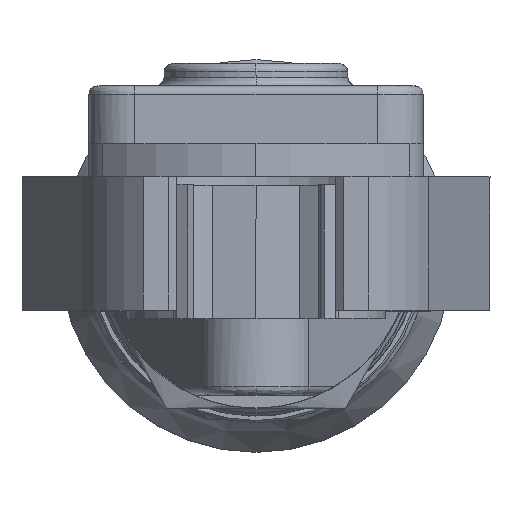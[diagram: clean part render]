
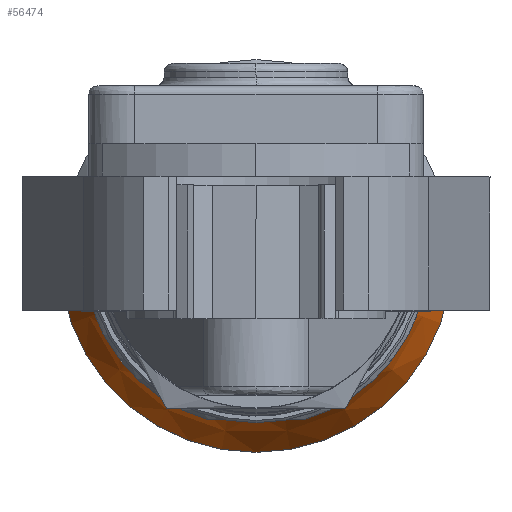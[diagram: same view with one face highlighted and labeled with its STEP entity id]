
A CAD part, top view. The second image highlights one B-rep face of the part: STEP entity #56474.
In plain terms, the highlighted conical face has half-angle 30 degrees and reference radius 19.05 mm.
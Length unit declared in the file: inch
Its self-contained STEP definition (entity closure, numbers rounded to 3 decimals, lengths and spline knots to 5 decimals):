
#2720 = EDGE_LOOP ( 'NONE', ( #53726, #8080, #48964, #38703 ) ) ;
#2801 = EDGE_CURVE ( 'NONE', #56635, #46944, #20725, .T. ) ;
#4835 = VECTOR ( 'NONE', #58913, 39.37008 ) ;
#6954 = EDGE_CURVE ( 'NONE', #56635, #19429, #64011, .T. ) ;
#8080 = ORIENTED_EDGE ( 'NONE', *, *, #6954, .T. ) ;
#12203 = CARTESIAN_POINT ( 'NONE',  ( 0., 0., -5.69811 ) ) ;
#13412 = EDGE_CURVE ( 'NONE', #19429, #57842, #14093, .T. ) ;
#13658 = CARTESIAN_POINT ( 'NONE',  ( 0.75, 0., -5.395 ) ) ;
#14093 = LINE ( 'NONE', #58964, #4835 ) ;
#16808 = AXIS2_PLACEMENT_3D ( 'NONE', #12203, #48435, #17674 ) ;
#17040 = AXIS2_PLACEMENT_3D ( 'NONE', #33783, #54315, #51914 ) ;
#17674 = DIRECTION ( 'NONE',  ( -1., 0., 0. ) ) ;
#19429 = VERTEX_POINT ( 'NONE', #27125 ) ;
#19855 = VECTOR ( 'NONE', #49286, 39.37008 ) ;
#20725 = LINE ( 'NONE', #49332, #19855 ) ;
#26293 = DIRECTION ( 'NONE',  ( -1., 0., 0. ) ) ;
#27125 = CARTESIAN_POINT ( 'NONE',  ( -0.75, 0., -5.395 ) ) ;
#29839 = EDGE_CURVE ( 'NONE', #46944, #57842, #48175, .T. ) ;
#33369 = CARTESIAN_POINT ( 'NONE',  ( -0.925, 0., -5.69811 ) ) ;
#33783 = CARTESIAN_POINT ( 'NONE',  ( 0., 0., -5.395 ) ) ;
#34282 = AXIS2_PLACEMENT_3D ( 'NONE', #56768, #66789, #26293 ) ;
#35393 = CARTESIAN_POINT ( 'NONE',  ( 0.925, 0., -5.69811 ) ) ;
#38703 = ORIENTED_EDGE ( 'NONE', *, *, #29839, .F. ) ;
#46944 = VERTEX_POINT ( 'NONE', #35393 ) ;
#48175 = CIRCLE ( 'NONE', #16808, 0.925 ) ;
#48435 = DIRECTION ( 'NONE',  ( 0., 0., -1. ) ) ;
#48964 = ORIENTED_EDGE ( 'NONE', *, *, #13412, .T. ) ;
#49286 = DIRECTION ( 'NONE',  ( 0.5, 0., -0.866 ) ) ;
#49332 = CARTESIAN_POINT ( 'NONE',  ( 0.75, 0., -5.395 ) ) ;
#51914 = DIRECTION ( 'NONE',  ( -1., 0., 0. ) ) ;
#53726 = ORIENTED_EDGE ( 'NONE', *, *, #2801, .F. ) ;
#54315 = DIRECTION ( 'NONE',  ( 0., 0., -1. ) ) ;
#54889 = CONICAL_SURFACE ( 'NONE', #34282, 0.75, 0.524 ) ;
#56474 = ADVANCED_FACE ( 'NONE', ( #61348 ), #54889, .T. ) ;
#56635 = VERTEX_POINT ( 'NONE', #13658 ) ;
#56768 = CARTESIAN_POINT ( 'NONE',  ( 0., 0., -5.395 ) ) ;
#57842 = VERTEX_POINT ( 'NONE', #33369 ) ;
#58913 = DIRECTION ( 'NONE',  ( -0.5, 0., -0.866 ) ) ;
#58964 = CARTESIAN_POINT ( 'NONE',  ( -0.75, 0., -5.395 ) ) ;
#61348 = FACE_OUTER_BOUND ( 'NONE', #2720, .T. ) ;
#64011 = CIRCLE ( 'NONE', #17040, 0.75 ) ;
#66789 = DIRECTION ( 'NONE',  ( 0., 0., -1. ) ) ;
